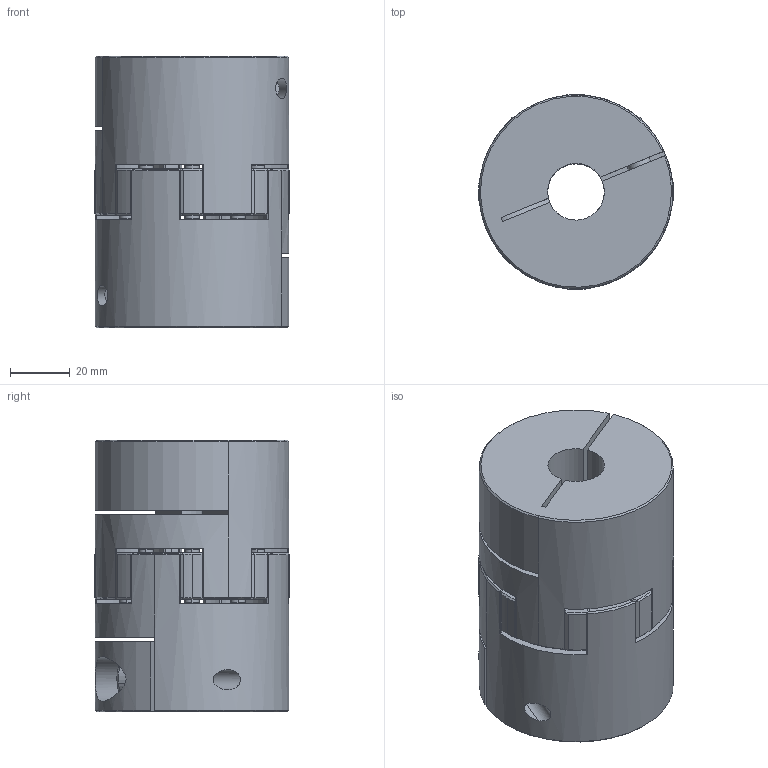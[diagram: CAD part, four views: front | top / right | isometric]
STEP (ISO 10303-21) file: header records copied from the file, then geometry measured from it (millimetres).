
FILE_DESCRIPTION (( 'STEP AP203' ), '1' );
FILE_NAME ('ACOPLAMENTO ADS-150.STEP', '2021-11-04T11:45:24', ( '' ), ( '' ), 'SwSTEP 2.0', 'SolidWorks 2019', '' );
FILE_SCHEMA (( 'CONFIG_CONTROL_DESIGN' ));
Length unit declared in the file: millimetre
Products named in the file (4): CORPO ADS 150; ACOPLAMENTO ADS-150; DIN 912_M8x20; ELASTÔMERO_ADS 150
Assembly tree (5 placements, depth 2):
  ACOPLAMENTO ADS-150
    ELASTÔMERO_ADS 150
    CORPO ADS 150  x2
    DIN 912_M8x20  x2
Bounding box: 65.3 x 65.28 x 91 mm (x, y, z)
Volume: 252576.9 mm3; surface area: 61115.8 mm2
Topology: 5 solids, 5 shells, 527 faces, 1156 edges, 655 vertices
Faces by surface type: plane 204, cylinder 129, cone 122, bspline 40, torus 32
Entity records: 11699 total; most frequent: CARTESIAN_POINT 2602, DIRECTION 1849, ORIENTED_EDGE 1766, EDGE_CURVE 883, AXIS2_PLACEMENT_3D 756, VERTEX_POINT 499, EDGE_LOOP 434, ADVANCED_FACE 408
